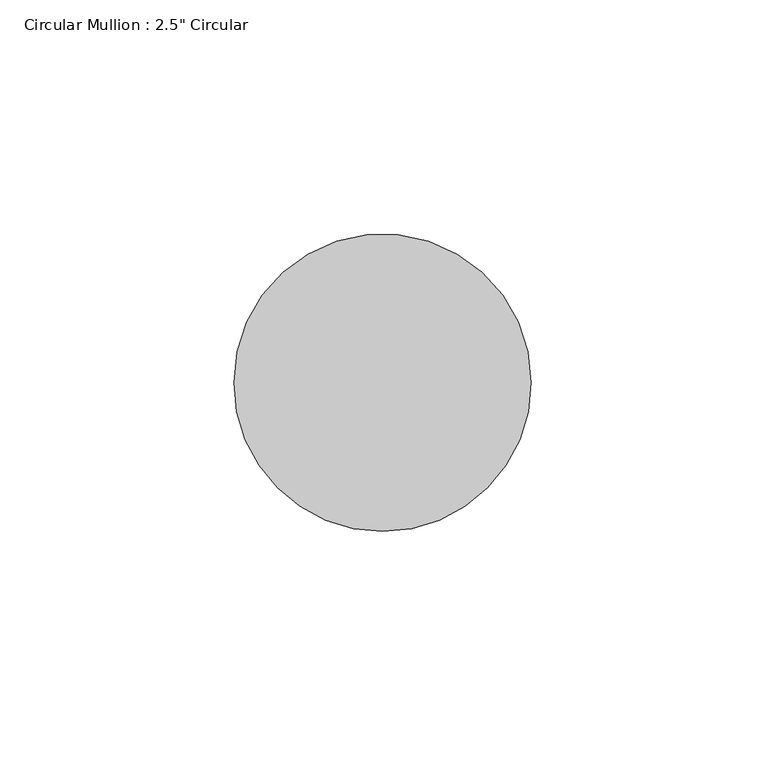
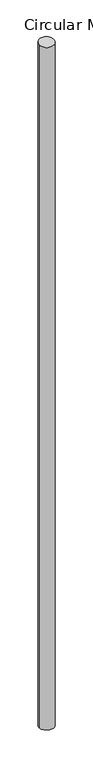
"""IFC4 building model written with IfcOpenShell, lengths in millimetres: member geometry."""

import ifcopenshell
import ifcopenshell.guid

model = None  # the IFC model being written
_history = None  # IfcOwnerHistory: only IFC2X3 demands one
_inside = {}  # id of a spatial element -> (the spatial element, [elements in it])
_under = {}  # id of a project, library or spatial element -> (it, [spatial elements below it])
_declared = {}  # id of a project -> (the project, [libraries it declares])
_typed = {}  # id of a type object -> (the type object, [elements of that type])
_made_of = {}  # id of a material, layer set ... -> (it, [elements and type objects made of it])


def new_model(schema):
    """Start an empty IFC model of exactly this schema.

    Asked for "IFC4X3", IfcOpenShell would pick the latest addendum, in which some entities
    have other attributes; the version numbers below select the first issue.
    IFC2X3 requires an IfcOwnerHistory on every rooted entity: one is made here for all.
    """
    global model, _history
    if schema == "IFC4X3":
        model = ifcopenshell.file(schema_version=(4, 3, 0, 0))
    else:
        model = ifcopenshell.file(schema=schema)
    _inside.clear()
    _under.clear()
    _declared.clear()
    _typed.clear()
    _made_of.clear()
    _history = None
    if model.schema == "IFC2X3":
        org = make("IfcOrganization", Name="unknown")
        user = make(
            "IfcPersonAndOrganization",
            ThePerson=make("IfcPerson", FamilyName="unknown"),
            TheOrganization=org,
        )
        app = make(
            "IfcApplication",
            ApplicationDeveloper=org,
            Version="unknown",
            ApplicationFullName="unknown",
            ApplicationIdentifier="unknown",
        )
        _history = make(
            "IfcOwnerHistory",
            OwningUser=user,
            OwningApplication=app,
            ChangeAction="ADDED",
            CreationDate=0,
        )
    return model


def make(cls, **values):
    """One entity of the class cls with the attributes given. An attribute that is None is left unset."""
    return model.create_entity(
        cls, **{name: value for name, value in values.items() if value is not None}
    )


def rooted(cls, **values):
    """An entity with a GlobalId (a new one), such as an element, a storey or a relation."""
    return make(cls, GlobalId=ifcopenshell.guid.new(), OwnerHistory=_history, **values)


def si_unit(unit_type, name, prefix=None):
    """IfcSIUnit, for example si_unit("LENGTHUNIT", "METRE", prefix="MILLI")."""
    return make("IfcSIUnit", UnitType=unit_type, Prefix=prefix, Name=name)


def assignment(units):
    """IfcUnitAssignment: the units of a project."""
    return None if units is None else make("IfcUnitAssignment", Units=units)


def point(xyz):
    """IfcCartesianPoint."""
    return None if xyz is None else make("IfcCartesianPoint", Coordinates=xyz)


def direction(xyz):
    """IfcDirection."""
    return None if xyz is None else make("IfcDirection", DirectionRatios=xyz)


def frame(location, z_axis=None, x_axis=None):
    """IfcAxis2Placement3D, a coordinate frame: its origin and axes. An axis left out is left unset."""
    return make(
        "IfcAxis2Placement3D",
        Location=point(location),
        Axis=direction(z_axis),
        RefDirection=direction(x_axis),
    )


def origin():
    """The frame at (0, 0, 0) with its axes left unset."""
    return frame((0.0, 0.0, 0.0))


def place(relative_to, where):
    """IfcLocalPlacement: puts the frame where relative to a parent placement (None: the world)."""
    return make(
        "IfcLocalPlacement", PlacementRelTo=relative_to, RelativePlacement=where
    )


def context(
    kind, dimensions, precision=None, world=None, true_north=None, identifier=None
):
    """IfcGeometricRepresentationContext, for example the 3D "Model" context."""
    return make(
        "IfcGeometricRepresentationContext",
        ContextIdentifier=identifier,
        ContextType=kind,
        CoordinateSpaceDimension=dimensions,
        Precision=precision,
        WorldCoordinateSystem=world,
        TrueNorth=true_north,
    )


def project(units=None, contexts=None):
    """IfcProject with its units and contexts."""
    return rooted(
        "IfcProject",
        Name="project",
        RepresentationContexts=contexts,
        UnitsInContext=assignment(units),
    )


def spatial(cls, under=None, at=None, **own):
    """A site, building, storey or space (cls), placed at a placement, below another one or the project."""
    s = rooted(cls, ObjectPlacement=at, **own)
    if under is not None:
        _under.setdefault(under.id(), (under, []))[1].append(s)
    return s


def ellipse_curve(where, semi_axis1, semi_axis2):
    """IfcEllipse in the frame where."""
    return make(
        "IfcEllipse", Position=where, SemiAxis1=semi_axis1, SemiAxis2=semi_axis2
    )


def shape(context_of_items, identifier, shape_type, items):
    """IfcShapeRepresentation: the items that make up one representation, for example the "Body"."""
    return make(
        "IfcShapeRepresentation",
        ContextOfItems=context_of_items,
        RepresentationIdentifier=identifier,
        RepresentationType=shape_type,
        Items=items,
    )


def source(mapping_origin, context_of_items, identifier, shape_type, items):
    """IfcRepresentationMap: a shape defined once, which mapped items show again and again."""
    return make(
        "IfcRepresentationMap",
        MappingOrigin=mapping_origin,
        MappedRepresentation=shape(context_of_items, identifier, shape_type, items),
    )


def transform(
    local_origin,
    x_axis=None,
    y_axis=None,
    z_axis=None,
    scale=None,
    scale2=None,
    scale3=None,
    uniform=True,
):
    """IfcCartesianTransformationOperator3D, or its non-uniform kind. x_axis, y_axis, z_axis: its Axis1, 2, 3."""
    if uniform:
        return make(
            "IfcCartesianTransformationOperator3D",
            Axis1=direction(x_axis),
            Axis2=direction(y_axis),
            LocalOrigin=point(local_origin),
            Scale=scale,
            Axis3=direction(z_axis),
        )
    return make(
        "IfcCartesianTransformationOperator3DnonUniform",
        Axis1=direction(x_axis),
        Axis2=direction(y_axis),
        LocalOrigin=point(local_origin),
        Scale=scale,
        Axis3=direction(z_axis),
        Scale2=scale2,
        Scale3=scale3,
    )


def mapped(mapping_source, mapping_target):
    """IfcMappedItem: shows the shape of a source again, moved by a transform."""
    return make(
        "IfcMappedItem", MappingSource=mapping_source, MappingTarget=mapping_target
    )


def made_of(thing, what):
    """Note that an element or type object is made of a material, layer set ...; save() writes the relation."""
    if what is not None:
        _made_of.setdefault(what.id(), (what, []))[1].append(thing)
    return thing


def element(
    cls,
    number,
    at=None,
    inside=None,
    cuts=None,
    type_object=None,
    material=None,
    context=None,
    identifier="Body",
    shape_type=None,
    held_by="IfcProductDefinitionShape",
    body=None,
    shapes=None,
    **own,
):
    """One element of the class cls, such as IfcWall. Its Tag is "e" and its number.

    at: its placement. inside: the storey or other place that contains it. cuts: it is an
    opening in that element (IfcRelVoidsElement). A single representation is given by context,
    identifier, shape_type and body (its items); several are given by shapes. held_by: the class
    of the entity that holds the representations. save() writes the other relations.
    """
    e = rooted(cls, Tag="e%d" % number, ObjectPlacement=at, **own)
    if body is not None:
        shapes = [shape(context, identifier, shape_type, body)]
    if shapes is not None:
        e.Representation = make(held_by, Representations=shapes)
    if inside is not None:
        _inside.setdefault(inside.id(), (inside, []))[1].append(e)
    if cuts is not None:
        rooted(
            "IfcRelVoidsElement", RelatingBuildingElement=cuts, RelatedOpeningElement=e
        )
    if type_object is not None:
        _typed.setdefault(type_object.id(), (type_object, []))[1].append(e)
    return made_of(e, material)


def aggregate(whole, parts):
    """IfcRelAggregates: a whole, such as a stair, and the parts it consists of."""
    return rooted("IfcRelAggregates", RelatingObject=whole, RelatedObjects=parts)


def save(model, path):
    """Write the relations noted so far, then the file.

    IfcRelAggregates (storeys below a building ...), IfcRelContainedInSpatialStructure (elements
    in a storey), IfcRelDefinesByType, IfcRelAssociatesMaterial and IfcRelDeclares: one each for
    every whole, place, type object, material and project.
    """
    for whole, parts in _under.values():
        aggregate(whole, parts)
    for where, things in _inside.values():
        rooted(
            "IfcRelContainedInSpatialStructure",
            RelatedElements=things,
            RelatingStructure=where,
        )
    for kind, things in _typed.values():
        rooted("IfcRelDefinesByType", RelatedObjects=things, RelatingType=kind)
    for what, things in _made_of.values():
        rooted("IfcRelAssociatesMaterial", RelatedObjects=things, RelatingMaterial=what)
    for by, libraries in _declared.values():
        rooted("IfcRelDeclares", RelatingContext=by, RelatedDefinitions=libraries)
    model.write(path)


def plane_surface(at):
    """IfcPlane: the flat surface through the origin of the frame at, square to its z axis."""
    return make("IfcPlane", Position=at)


def cylinder_surface(at, radius):
    """IfcCylindricalSurface: all points at the distance radius from the z axis of the frame at."""
    return make("IfcCylindricalSurface", Position=at, Radius=radius)


def advanced_brep(points, edges, surfaces, faces):
    """IfcAdvancedBrep: a solid bounded by faces that lie on surfaces and meet in shared edges.

    An edge is (start, end): straight between two places in points (the first is 0);
    or (start, end, curve); or (start, end, curve, False) where it runs against its curve.
    A face is (place in surfaces, loops), or (place, loops, False) where it looks against
    its surface's normal. A loop lists edges by number (the first is 1), with a minus sign
    where the edge is run from its end to its start. The first loop is the outer one.
    """
    corners = [point(p) for p in points]
    vertices = [make("IfcVertexPoint", VertexGeometry=c) for c in corners]
    made = []
    for start, end, *more in edges:
        made.append(
            make(
                "IfcEdgeCurve",
                EdgeStart=vertices[start],
                EdgeEnd=vertices[end],
                EdgeGeometry=more[0] if more else make("IfcPolyline", Points=[corners[start], corners[end]]),
                SameSense=more[1] if len(more) > 1 else True,
            )
        )
    hull = []
    for where, loops, *sense in faces:
        bounds = []
        for j, loop in enumerate(loops):
            ring = [make("IfcOrientedEdge", EdgeElement=made[abs(k) - 1], Orientation=k > 0) for k in loop]
            bounds.append(
                make(
                    "IfcFaceOuterBound" if j == 0 else "IfcFaceBound",
                    Bound=make("IfcEdgeLoop", EdgeList=ring),
                    Orientation=True,
                )
            )
        hull.append(make("IfcAdvancedFace", Bounds=bounds, FaceSurface=surfaces[where], SameSense=sense[0] if sense else True))
    return make("IfcAdvancedBrep", Outer=make("IfcClosedShell", CfsFaces=hull))


def member_3af32491(model_context):
    return source(origin(), model_context, "Body", "AdvancedBrep", [
        advanced_brep(
        [(-63.5, 0.0, -1.2679109), (0.0, 0.0, 0.0), (0.0, 0.0, -3060.732062), (-63.5, 0.0, -3059.517494)],
        [
            (0, 1, ellipse_curve(frame((-31.75, 0.0, -0.6339555), z_axis=(0.019928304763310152, 0.05903468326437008, -0.9980569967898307), x_axis=(0.31921625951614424, 0.9456314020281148, 0.062307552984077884)), 31.8118104, 31.75)),
            (1, 2),
            (2, 3, ellipse_curve(frame((-31.75, 0.0, -3060.124778), z_axis=(0.019092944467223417, 0.05656005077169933, 0.9982166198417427), x_axis=(-0.3192673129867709, -0.9457826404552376, 0.059695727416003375)), 31.8067235, 31.75)),
            (3, 0),
            (1, 0, ellipse_curve(frame((-31.75, 0.0, -0.6339555), z_axis=(0.019928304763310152, 0.05903468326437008, -0.9980569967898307), x_axis=(0.31921625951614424, 0.9456314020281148, 0.062307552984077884)), 31.8118104, 31.75)),
            (3, 2, ellipse_curve(frame((-31.75, 0.0, -3060.124778), z_axis=(0.019092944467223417, 0.05656005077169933, 0.9982166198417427), x_axis=(-0.3192673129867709, -0.9457826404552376, 0.059695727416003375)), 31.8067235, 31.75)),
        ],
        [
            cylinder_surface(frame((-31.75, 0.0, 0.0), z_axis=(0.0, 0.0, 1.0), x_axis=(1.0, 0.0, 0.0)), 31.75),
            plane_surface(frame((288.7895704, -97.4865325, 0.0), z_axis=(-0.019928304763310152, -0.05903468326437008, 0.9980569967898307), x_axis=(-0.31921625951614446, -0.9456314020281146, -0.06230755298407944))),
            plane_surface(frame((288.7895704, -97.4865325, -3060.732062), z_axis=(-0.01909294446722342, -0.056560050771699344, -0.9982166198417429), x_axis=(-0.319267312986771, -0.9457826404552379, 0.0596957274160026))),
        ],
        [
            (0, [[1, 2, 3, 4]]),
            (0, [[5, -4, 6, -2]]),
            (1, [[-1, -5]]),
            (2, [[-6, -3]]),
        ],
    ),
    ])


if __name__ == "__main__":
    model = new_model("IFC4")
    model_context = context("Model", 3, world=origin())
    ifc_project = project(units=[si_unit("LENGTHUNIT", "METRE", prefix="MILLI")], contexts=[model_context])
    site = spatial("IfcSite", under=ifc_project)
    building = spatial("IfcBuilding", under=site)
    placement = place(None, origin())
    member_shape = member_3af32491(model_context)
    element("IfcMember", 1, ObjectType="Circular Mullion : 2.5\" Circular", at=placement, inside=building, context=model_context, shape_type="MappedRepresentation", body=[
        mapped(member_shape, transform((0.0, 0.0, 0.0), x_axis=(1.0, 0.0, 0.0), y_axis=(0.0, 1.0, 0.0), z_axis=(0.0, 0.0, 1.0))),
    ])
    save(model, "model.ifc")
